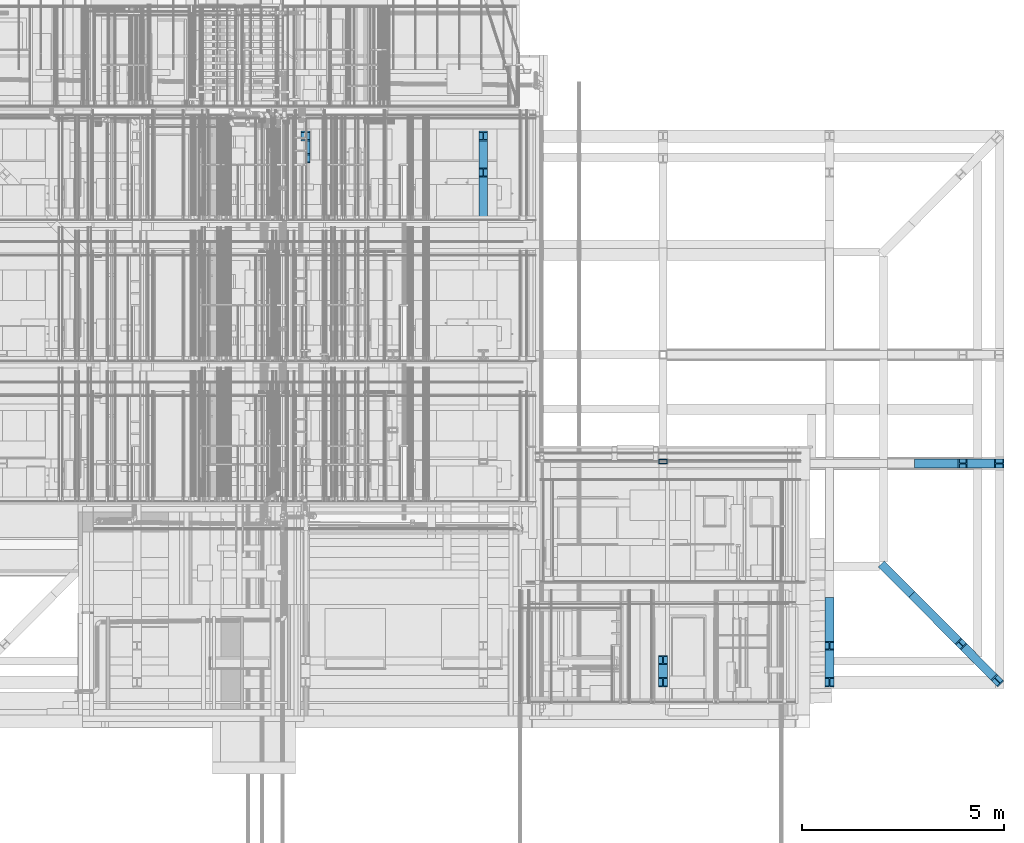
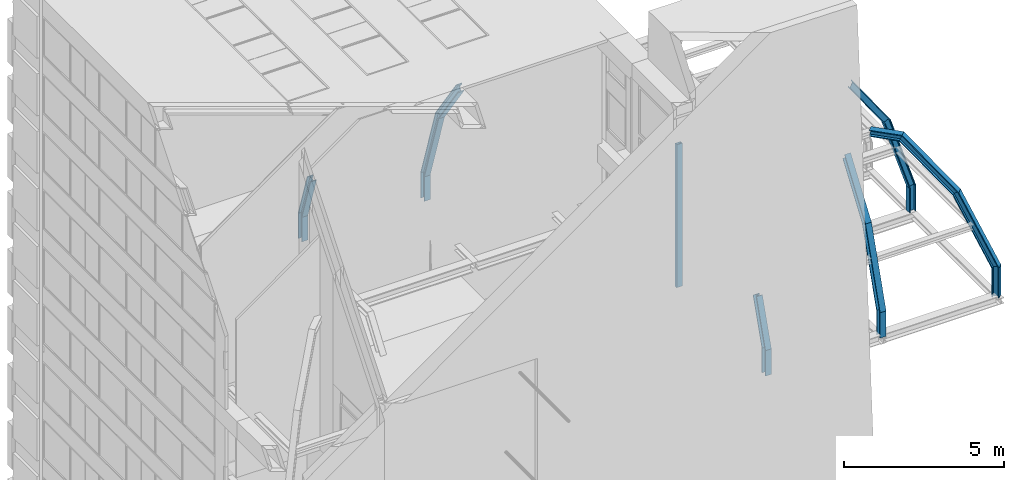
# One storey, part 2 of 583: 18 columns.
"""IFC2X3 building model written with IfcOpenShell, lengths in metres."""

import ifcopenshell
import ifcopenshell.guid

model = None  # the IFC model being written
_history = None  # IfcOwnerHistory: only IFC2X3 demands one
_inside = {}  # id of a spatial element -> (the spatial element, [elements in it])
_under = {}  # id of a project, library or spatial element -> (it, [spatial elements below it])
_declared = {}  # id of a project -> (the project, [libraries it declares])
_typed = {}  # id of a type object -> (the type object, [elements of that type])
_made_of = {}  # id of a material, layer set ... -> (it, [elements and type objects made of it])


def new_model(schema):
    """Start an empty IFC model of exactly this schema.

    Asked for "IFC4X3", IfcOpenShell would pick the latest addendum, in which some entities
    have other attributes; the version numbers below select the first issue.
    IFC2X3 requires an IfcOwnerHistory on every rooted entity: one is made here for all.
    """
    global model, _history
    if schema == "IFC4X3":
        model = ifcopenshell.file(schema_version=(4, 3, 0, 0))
    else:
        model = ifcopenshell.file(schema=schema)
    _inside.clear()
    _under.clear()
    _declared.clear()
    _typed.clear()
    _made_of.clear()
    _history = None
    if model.schema == "IFC2X3":
        org = make("IfcOrganization", Name="unknown")
        user = make(
            "IfcPersonAndOrganization",
            ThePerson=make("IfcPerson", FamilyName="unknown"),
            TheOrganization=org,
        )
        app = make(
            "IfcApplication",
            ApplicationDeveloper=org,
            Version="unknown",
            ApplicationFullName="unknown",
            ApplicationIdentifier="unknown",
        )
        _history = make(
            "IfcOwnerHistory",
            OwningUser=user,
            OwningApplication=app,
            ChangeAction="ADDED",
            CreationDate=0,
        )
    return model


def make(cls, **values):
    """One entity of the class cls with the attributes given. An attribute that is None is left unset."""
    return model.create_entity(
        cls, **{name: value for name, value in values.items() if value is not None}
    )


def entity(cls, *values):
    """Any entity or typed value of the class cls, its attributes in the order of the schema. None: left unset."""
    e = model.create_entity(cls)
    for i, value in enumerate(values):
        if value is not None:
            e[i] = value
    return e


def rooted(cls, **values):
    """An entity with a GlobalId (a new one), such as an element, a storey or a relation."""
    return make(cls, GlobalId=ifcopenshell.guid.new(), OwnerHistory=_history, **values)


def si_unit(unit_type, name, prefix=None):
    """IfcSIUnit, for example si_unit("LENGTHUNIT", "METRE", prefix="MILLI")."""
    return make("IfcSIUnit", UnitType=unit_type, Prefix=prefix, Name=name)


def converted_unit(unit_type, name, factor, base, dimensions=None, offset=None):
    """IfcConversionBasedUnit, such as the inch: factor (a typed value) times the base unit."""
    return make(
        "IfcConversionBasedUnit"
        if offset is None
        else "IfcConversionBasedUnitWithOffset",
        ConversionOffset=offset,
        Dimensions=None
        if dimensions is None
        else entity("IfcDimensionalExponents", *dimensions),
        UnitType=unit_type,
        Name=name,
        ConversionFactor=make(
            "IfcMeasureWithUnit", ValueComponent=factor, UnitComponent=base
        ),
    )


def derived_unit(unit_type, elements):
    """IfcDerivedUnit: a product of units, each with its exponent."""
    return make(
        "IfcDerivedUnit",
        Elements=[
            make("IfcDerivedUnitElement", Unit=unit, Exponent=power)
            for unit, power in elements
        ],
        UnitType=unit_type,
    )


def money_unit(currency):
    """IfcMonetaryUnit."""
    return make("IfcMonetaryUnit", Currency=currency)


def assignment(units):
    """IfcUnitAssignment: the units of a project."""
    return None if units is None else make("IfcUnitAssignment", Units=units)


def point(xyz):
    """IfcCartesianPoint."""
    return None if xyz is None else make("IfcCartesianPoint", Coordinates=xyz)


def direction(xyz):
    """IfcDirection."""
    return None if xyz is None else make("IfcDirection", DirectionRatios=xyz)


def frame(location, z_axis=None, x_axis=None):
    """IfcAxis2Placement3D, a coordinate frame: its origin and axes. An axis left out is left unset."""
    return make(
        "IfcAxis2Placement3D",
        Location=point(location),
        Axis=direction(z_axis),
        RefDirection=direction(x_axis),
    )


def origin_with_axes():
    """The frame at (0, 0, 0) with the z axis (0, 0, 1) and the x axis (1, 0, 0) written out."""
    return frame((0.0, 0.0, 0.0), z_axis=(0.0, 0.0, 1.0), x_axis=(1.0, 0.0, 0.0))


def place(relative_to, where):
    """IfcLocalPlacement: puts the frame where relative to a parent placement (None: the world)."""
    return make(
        "IfcLocalPlacement", PlacementRelTo=relative_to, RelativePlacement=where
    )


def context(
    kind, dimensions, precision=None, world=None, true_north=None, identifier=None
):
    """IfcGeometricRepresentationContext, for example the 3D "Model" context."""
    return make(
        "IfcGeometricRepresentationContext",
        ContextIdentifier=identifier,
        ContextType=kind,
        CoordinateSpaceDimension=dimensions,
        Precision=precision,
        WorldCoordinateSystem=world,
        TrueNorth=true_north,
    )


def subcontext(parent, identifier, kind, view, scale=None):
    """IfcGeometricRepresentationSubContext, for example "Body" below "Model"."""
    return make(
        "IfcGeometricRepresentationSubContext",
        ContextIdentifier=identifier,
        ContextType=kind,
        ParentContext=parent,
        TargetScale=scale,
        TargetView=view,
    )


def project(units=None, contexts=None):
    """IfcProject with its units and contexts."""
    return rooted(
        "IfcProject",
        Name="project",
        RepresentationContexts=contexts,
        UnitsInContext=assignment(units),
    )


def spatial(cls, under=None, at=None, **own):
    """A site, building, storey or space (cls), placed at a placement, below another one or the project."""
    s = rooted(cls, ObjectPlacement=at, **own)
    if under is not None:
        _under.setdefault(under.id(), (under, []))[1].append(s)
    return s


def polyline(points):
    """IfcPolyline through the points."""
    return make("IfcPolyline", Points=[point(p) for p in points])


def outline(outer, holes=None, kind="AREA"):
    """IfcArbitraryClosedProfileDef: a profile drawn as a closed curve; with holes, ...WithVoids."""
    if holes is None:
        return make("IfcArbitraryClosedProfileDef", ProfileType=kind, OuterCurve=outer)
    return make(
        "IfcArbitraryProfileDefWithVoids",
        ProfileType=kind,
        OuterCurve=outer,
        InnerCurves=holes,
    )


def extrude(swept, where, along, depth):
    """IfcExtrudedAreaSolid: the profile swept, set in the frame where, extruded along a direction by depth."""
    return make(
        "IfcExtrudedAreaSolid",
        SweptArea=swept,
        Position=where,
        ExtrudedDirection=direction(along),
        Depth=depth,
    )


def clip(a, b, op="DIFFERENCE"):
    """IfcBooleanClippingResult: the solid a cut by the half space b."""
    return make(
        "IfcBooleanClippingResult", Operator=op, FirstOperand=a, SecondOperand=b
    )


def halfspace(plane, agree):
    """IfcHalfSpaceSolid: all space on one side of the plane z = 0 of the frame plane."""
    return make(
        "IfcHalfSpaceSolid",
        BaseSurface=make("IfcPlane", Position=plane),
        AgreementFlag=agree,
    )


def shape(context_of_items, identifier, shape_type, items):
    """IfcShapeRepresentation: the items that make up one representation, for example the "Body"."""
    return make(
        "IfcShapeRepresentation",
        ContextOfItems=context_of_items,
        RepresentationIdentifier=identifier,
        RepresentationType=shape_type,
        Items=items,
    )


def material(Name=None, Category=None):
    """IfcMaterial."""
    return make("IfcMaterial", Name=Name, Category=Category)


def made_of(thing, what):
    """Note that an element or type object is made of a material, layer set ...; save() writes the relation."""
    if what is not None:
        _made_of.setdefault(what.id(), (what, []))[1].append(thing)
    return thing


def type_object(cls, material=None, **own):
    """A type object (cls), such as IfcWallType, which elements share."""
    return made_of(rooted(cls, **own), material)


def element(
    cls,
    number,
    at=None,
    inside=None,
    cuts=None,
    type_object=None,
    material=None,
    context=None,
    identifier="Body",
    shape_type=None,
    held_by="IfcProductDefinitionShape",
    body=None,
    shapes=None,
    **own,
):
    """One element of the class cls, such as IfcWall. Its Tag is "e" and its number.

    at: its placement. inside: the storey or other place that contains it. cuts: it is an
    opening in that element (IfcRelVoidsElement). A single representation is given by context,
    identifier, shape_type and body (its items); several are given by shapes. held_by: the class
    of the entity that holds the representations. save() writes the other relations.
    """
    e = rooted(cls, Tag="e%d" % number, ObjectPlacement=at, **own)
    if body is not None:
        shapes = [shape(context, identifier, shape_type, body)]
    if shapes is not None:
        e.Representation = make(held_by, Representations=shapes)
    if inside is not None:
        _inside.setdefault(inside.id(), (inside, []))[1].append(e)
    if cuts is not None:
        rooted(
            "IfcRelVoidsElement", RelatingBuildingElement=cuts, RelatedOpeningElement=e
        )
    if type_object is not None:
        _typed.setdefault(type_object.id(), (type_object, []))[1].append(e)
    return made_of(e, material)


def aggregate(whole, parts):
    """IfcRelAggregates: a whole, such as a stair, and the parts it consists of."""
    return rooted("IfcRelAggregates", RelatingObject=whole, RelatedObjects=parts)


def save(model, path):
    """Write the relations noted so far, then the file.

    IfcRelAggregates (storeys below a building ...), IfcRelContainedInSpatialStructure (elements
    in a storey), IfcRelDefinesByType, IfcRelAssociatesMaterial and IfcRelDeclares: one each for
    every whole, place, type object, material and project.
    """
    for whole, parts in _under.values():
        aggregate(whole, parts)
    for where, things in _inside.values():
        rooted(
            "IfcRelContainedInSpatialStructure",
            RelatedElements=things,
            RelatingStructure=where,
        )
    for kind, things in _typed.values():
        rooted("IfcRelDefinesByType", RelatedObjects=things, RelatingType=kind)
    for what, things in _made_of.values():
        rooted("IfcRelAssociatesMaterial", RelatedObjects=things, RelatingMaterial=what)
    for by, libraries in _declared.values():
        rooted("IfcRelDeclares", RelatingContext=by, RelatedDefinitions=libraries)
    model.write(path)


model = new_model("IFC2X3")

# Units and contexts
model_context = context("Model", 3, precision=1e-05, world=origin_with_axes(), true_north=direction((0.0, 1.0)))
body_context = subcontext(model_context, "Body", "Model", "MODEL_VIEW", scale=1.0)
ifc_project = project(units=[si_unit("LENGTHUNIT", "METRE"), si_unit("AREAUNIT", "SQUARE_METRE"), si_unit("VOLUMEUNIT", "CUBIC_METRE"), si_unit("ABSORBEDDOSEUNIT", "GRAY"), si_unit("AMOUNTOFSUBSTANCEUNIT", "MOLE"), si_unit("DOSEEQUIVALENTUNIT", "SIEVERT"), si_unit("ELECTRICCAPACITANCEUNIT", "FARAD"), si_unit("ELECTRICCHARGEUNIT", "COULOMB"), si_unit("ELECTRICCONDUCTANCEUNIT", "SIEMENS"), si_unit("ELECTRICCURRENTUNIT", "AMPERE"), si_unit("ELECTRICRESISTANCEUNIT", "OHM"), si_unit("ELECTRICVOLTAGEUNIT", "VOLT"), si_unit("ENERGYUNIT", "JOULE"), si_unit("FORCEUNIT", "NEWTON"), si_unit("FREQUENCYUNIT", "HERTZ"), si_unit("ILLUMINANCEUNIT", "LUX"), si_unit("INDUCTANCEUNIT", "HENRY"), si_unit("LUMINOUSFLUXUNIT", "LUMEN"), si_unit("LUMINOUSINTENSITYUNIT", "CANDELA"), si_unit("MAGNETICFLUXDENSITYUNIT", "TESLA"), si_unit("MAGNETICFLUXUNIT", "WEBER"), si_unit("MASSUNIT", "GRAM"), converted_unit("PLANEANGLEUNIT", "degree", entity("IfcReal", 0.0174532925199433), si_unit("PLANEANGLEUNIT", "RADIAN"), dimensions=[0, 0, 0, 0, 0, 0, 0]), si_unit("POWERUNIT", "WATT"), si_unit("PRESSUREUNIT", "PASCAL"), si_unit("RADIOACTIVITYUNIT", "BECQUEREL"), si_unit("SOLIDANGLEUNIT", "STERADIAN"), si_unit("THERMODYNAMICTEMPERATUREUNIT", "KELVIN"), si_unit("TIMEUNIT", "SECOND"), derived_unit("ACCELERATIONUNIT", [(si_unit("LENGTHUNIT", "METRE"), 1), (si_unit("TIMEUNIT", "SECOND"), -2)]), derived_unit("ANGULARVELOCITYUNIT", [(converted_unit("PLANEANGLEUNIT", "degree", entity("IfcReal", 0.0174532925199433), si_unit("PLANEANGLEUNIT", "RADIAN"), dimensions=[0, 0, 0, 0, 0, 0, 0]), 1), (si_unit("TIMEUNIT", "SECOND"), -1)]), derived_unit("CURVATUREUNIT", [(converted_unit("PLANEANGLEUNIT", "degree", entity("IfcReal", 0.0174532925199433), si_unit("PLANEANGLEUNIT", "RADIAN"), dimensions=[0, 0, 0, 0, 0, 0, 0]), 1), (si_unit("LENGTHUNIT", "METRE"), -1)]), derived_unit("DYNAMICVISCOSITYUNIT", [(si_unit("PRESSUREUNIT", "PASCAL"), 1), (si_unit("TIMEUNIT", "SECOND"), 1)]), derived_unit("HEATFLUXDENSITYUNIT", [(si_unit("POWERUNIT", "WATT"), 1), (si_unit("LENGTHUNIT", "METRE"), -2)]), derived_unit("HEATINGVALUEUNIT", [(si_unit("ENERGYUNIT", "JOULE"), 1), (si_unit("MASSUNIT", "GRAM"), -1)]), derived_unit("INTEGERCOUNTRATEUNIT", [(si_unit("TIMEUNIT", "SECOND"), -1)]), derived_unit("IONCONCENTRATIONUNIT", [(si_unit("MASSUNIT", "GRAM"), 1), (si_unit("VOLUMEUNIT", "CUBIC_METRE"), -1)]), derived_unit("ISOTHERMALMOISTURECAPACITYUNIT", [(si_unit("VOLUMEUNIT", "CUBIC_METRE"), 1), (si_unit("MASSUNIT", "GRAM"), -1)]), derived_unit("KINEMATICVISCOSITYUNIT", [(si_unit("AREAUNIT", "SQUARE_METRE"), 1), (si_unit("TIMEUNIT", "SECOND"), -1)]), derived_unit("LINEARFORCEUNIT", [(si_unit("FORCEUNIT", "NEWTON"), 1), (si_unit("LENGTHUNIT", "METRE"), -1)]), derived_unit("LINEARMOMENTUNIT", [(si_unit("FORCEUNIT", "NEWTON"), 1), (si_unit("LENGTHUNIT", "METRE"), -1)]), derived_unit("LINEARSTIFFNESSUNIT", [(si_unit("FORCEUNIT", "NEWTON"), 1), (si_unit("LENGTHUNIT", "METRE"), -1)]), derived_unit("LINEARVELOCITYUNIT", [(si_unit("LENGTHUNIT", "METRE"), 1), (si_unit("TIMEUNIT", "SECOND"), -1)]), derived_unit("LUMINOUSINTENSITYDISTRIBUTIONUNIT", [(si_unit("LUMINOUSINTENSITYUNIT", "CANDELA"), 1), (si_unit("LUMINOUSFLUXUNIT", "LUMEN"), -1)]), derived_unit("MASSDENSITYUNIT", [(si_unit("MASSUNIT", "GRAM"), 1), (si_unit("VOLUMEUNIT", "CUBIC_METRE"), -1)]), derived_unit("MASSFLOWRATEUNIT", [(si_unit("MASSUNIT", "GRAM"), 1), (si_unit("TIMEUNIT", "SECOND"), -1)]), derived_unit("MASSPERLENGTHUNIT", [(si_unit("MASSUNIT", "GRAM"), 1), (si_unit("LENGTHUNIT", "METRE"), -1)]), derived_unit("MODULUSOFELASTICITYUNIT", [(si_unit("FORCEUNIT", "NEWTON"), 1), (si_unit("AREAUNIT", "SQUARE_METRE"), -1)]), derived_unit("MODULUSOFLINEARSUBGRADEREACTIONUNIT", [(si_unit("FORCEUNIT", "NEWTON"), 1), (si_unit("LENGTHUNIT", "METRE"), -2)]), derived_unit("MODULUSOFROTATIONALSUBGRADEREACTIONUNIT", [(si_unit("FORCEUNIT", "NEWTON"), 1), (si_unit("LENGTHUNIT", "METRE"), 1)]), derived_unit("MODULUSOFSUBGRADEREACTIONUNIT", [(si_unit("FORCEUNIT", "NEWTON"), 1), (si_unit("VOLUMEUNIT", "CUBIC_METRE"), -1)]), derived_unit("MOISTUREDIFFUSIVITYUNIT", [(si_unit("VOLUMEUNIT", "CUBIC_METRE"), 1), (si_unit("TIMEUNIT", "SECOND"), -1)]), derived_unit("MOLECULARWEIGHTUNIT", [(si_unit("MASSUNIT", "GRAM"), 1), (si_unit("AMOUNTOFSUBSTANCEUNIT", "MOLE"), -1)]), derived_unit("PLANARFORCEUNIT", [(si_unit("FORCEUNIT", "NEWTON"), 1), (si_unit("LENGTHUNIT", "METRE"), -2)]), derived_unit("ROTATIONALFREQUENCYUNIT", [(si_unit("TIMEUNIT", "SECOND"), -1)]), derived_unit("ROTATIONALMASSUNIT", [(si_unit("MASSUNIT", "GRAM"), 1), (si_unit("LENGTHUNIT", "METRE"), 2)]), derived_unit("ROTATIONALSTIFFNESSUNIT", [(si_unit("FORCEUNIT", "NEWTON"), 1), (si_unit("LENGTHUNIT", "METRE"), 1), (converted_unit("PLANEANGLEUNIT", "degree", entity("IfcReal", 0.0174532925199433), si_unit("PLANEANGLEUNIT", "RADIAN"), dimensions=[0, 0, 0, 0, 0, 0, 0]), -1)]), derived_unit("SECTIONAREAINTEGRALUNIT", [(si_unit("LENGTHUNIT", "METRE"), 5)]), derived_unit("SECTIONMODULUSUNIT", [(si_unit("LENGTHUNIT", "METRE"), 3)]), derived_unit("SHEARMODULUSUNIT", [(si_unit("FORCEUNIT", "NEWTON"), 1), (si_unit("AREAUNIT", "SQUARE_METRE"), -1)]), derived_unit("SOUNDPOWERUNIT", [(si_unit("ENERGYUNIT", "JOULE"), 1), (si_unit("TIMEUNIT", "SECOND"), -1)]), derived_unit("SPECIFICHEATCAPACITYUNIT", [(si_unit("FORCEUNIT", "NEWTON"), 1), (si_unit("MASSUNIT", "GRAM"), -1), (si_unit("THERMODYNAMICTEMPERATUREUNIT", "KELVIN"), -1)]), derived_unit("TEMPERATUREGRADIENTUNIT", [(si_unit("THERMODYNAMICTEMPERATUREUNIT", "KELVIN"), 1), (si_unit("LENGTHUNIT", "METRE"), -1)]), derived_unit("THERMALADMITTANCEUNIT", [(si_unit("POWERUNIT", "WATT"), 1), (si_unit("AREAUNIT", "SQUARE_METRE"), -1), (si_unit("THERMODYNAMICTEMPERATUREUNIT", "KELVIN"), -1)]), derived_unit("THERMALCONDUCTANCEUNIT", [(si_unit("POWERUNIT", "WATT"), 1), (si_unit("LENGTHUNIT", "METRE"), -1), (si_unit("THERMODYNAMICTEMPERATUREUNIT", "KELVIN"), -1)]), derived_unit("THERMALEXPANSIONCOEFFICIENTUNIT", [(si_unit("THERMODYNAMICTEMPERATUREUNIT", "KELVIN"), -1)]), derived_unit("THERMALRESISTANCEUNIT", [(si_unit("AREAUNIT", "SQUARE_METRE"), 1), (si_unit("POWERUNIT", "WATT"), -1)]), derived_unit("THERMALTRANSMITTANCEUNIT", [(si_unit("POWERUNIT", "WATT"), 1), (si_unit("AREAUNIT", "SQUARE_METRE"), -1), (si_unit("THERMODYNAMICTEMPERATUREUNIT", "KELVIN"), -1)]), derived_unit("TORQUEUNIT", [(si_unit("FORCEUNIT", "NEWTON"), 1), (si_unit("LENGTHUNIT", "METRE"), 1)]), derived_unit("VAPORPERMEABILITYUNIT", [(si_unit("MASSUNIT", "GRAM"), 1), (si_unit("TIMEUNIT", "SECOND"), -1)]), derived_unit("VOLUMETRICFLOWRATEUNIT", [(si_unit("VOLUMEUNIT", "CUBIC_METRE"), 1), (si_unit("TIMEUNIT", "SECOND"), -1)]), derived_unit("WARPINGCONSTANTUNIT", [(si_unit("LENGTHUNIT", "METRE"), 6)]), derived_unit("WARPINGMOMENTUNIT", [(si_unit("FORCEUNIT", "NEWTON"), 1), (si_unit("LENGTHUNIT", "METRE"), 2)]), money_unit("GBP")], contexts=[model_context])

# Site, building, storey
site_placement = place(None, origin_with_axes())
site = spatial("IfcSite", under=ifc_project, at=site_placement, Name="Site", CompositionType="ELEMENT")
building_placement = place(site_placement, origin_with_axes())
building = spatial("IfcBuilding", under=site, at=building_placement, Name="Building01", CompositionType="ELEMENT")
storey_placement = place(building_placement, frame((0.0, 0.0, 20.78), z_axis=(0.0, 0.0, 1.0), x_axis=(1.0, 0.0, 0.0)))
storey = spatial("IfcBuildingStorey", under=building, at=storey_placement, Name="RL", CompositionType="ELEMENT", Elevation=20.78)

# Columns
ifc_material = material(Name="A_BSUK_Columns_Steel")
column_type = type_object("IfcColumnType", Name="A-Columns-Steel", PredefinedType="COLUMN")
column_1_placement = place(storey_placement, frame((17.96, 6.15, -5.85), z_axis=(0.0, 0.0, 1.0), x_axis=(-1.0, 0.0, 0.0)))
element("IfcColumn", 1, at=column_1_placement, inside=storey, type_object=column_type, material=ifc_material, Name="A-Columns-Steel", ObjectType="A-Columns-Steel", context=body_context, shape_type="SweptSolid", body=[
    extrude(outline(polyline([(-0.1, 0.05), (0.1, 0.05), (0.1, -0.05), (-0.1, -0.05), (-0.1, 0.05)]), holes=[polyline([(-0.09, 0.04), (-0.09, -0.04), (0.09, -0.04), (0.09, 0.04), (-0.09, 0.04)])]), origin_with_axes(), (0.0, 0.0, 1.0), 5.4468),
])
column_2_placement = place(storey_placement, frame((22.19695, 1.669278, -2.197404), z_axis=(0.0, 0.57357644, 0.81915204), x_axis=(-1.0, 0.0, 0.0)))
element("IfcColumn", 2, at=column_2_placement, inside=storey, type_object=column_type, material=ifc_material, Name="A2", ObjectType="A-Columns-Steel", context=body_context, shape_type="Clipping", body=[
    clip(clip(extrude(outline(polyline([(0.2139, 0.0), (0.2139, 0.0301), (0.116, 0.0301), (0.116, 0.2113), (0.2139, 0.2113), (0.2139, 0.2414), (0.0, 0.2414), (0.0, 0.2113), (0.0979, 0.2113), (0.0979, 0.0301), (0.0, 0.0301), (0.0, 0.0), (0.2139, 0.0)])), origin_with_axes(), (0.0, 0.0, 1.0), 2.269351), halfspace(frame((0.0, -0.878002, 1.686627), z_axis=(0.0, 0.46174861, -0.88701083), x_axis=(-1.0, 0.0, 0.0)), True)), halfspace(frame((0.0, 0.005274, 0.035289), z_axis=(0.0, 0.14780941, 0.98901586), x_axis=(1.0, 0.0, 0.0)), True)),
])
column_3_placement = place(storey_placement, frame((22.19695, 0.784485, -4.954652), z_axis=(0.0, 0.30901699, 0.95105652), x_axis=(-1.0, 0.0, 0.0)))
element("IfcColumn", 3, at=column_3_placement, inside=storey, type_object=column_type, material=ifc_material, Name="A2", ObjectType="A-Columns-Steel", context=body_context, shape_type="Clipping", body=[
    clip(clip(extrude(outline(polyline([(0.2139, 0.0), (0.2139, 0.0301), (0.116, 0.0301), (0.116, 0.2113), (0.2139, 0.2113), (0.2139, 0.2414), (0.0, 0.2414), (0.0, 0.2113), (0.0979, 0.2113), (0.0979, 0.0301), (0.0, 0.0301), (0.0, 0.0), (0.2139, 0.0)])), origin_with_axes(), (0.0, 0.0, 1.0), 2.966293), halfspace(frame((0.0, 0.005907, 0.037298), z_axis=(0.0, 0.15643447, 0.98768834), x_axis=(1.0, 0.0, 0.0)), True)), halfspace(frame((0.0, -0.428356, 2.866198), z_axis=(0.0, 0.14780941, -0.98901586), x_axis=(-1.0, 0.0, 0.0)), True)),
])
for number, where, z_axis, x_axis, name in (
    (4, (21.98305, 0.5549, -5.85), (0.0, 0.0, 1.0), (1.0, 0.0, 0.0), "A2"),
    (5, (17.85305, 0.5549, -5.85), (0.0, 0.0, 1.0), (1.0, 0.0, 0.0), "A2"),
):
    element("IfcColumn", number, at=place(storey_placement, frame(where, z_axis=z_axis, x_axis=x_axis)), inside=storey, type_object=column_type, material=ifc_material, Name=name, ObjectType="A-Columns-Steel", context=body_context, shape_type="Clipping", body=[
        clip(extrude(outline(polyline([(0.2139, 0.0), (0.2139, 0.0301), (0.116, 0.0301), (0.116, 0.2113), (0.2139, 0.2113), (0.2139, 0.2414), (0.0, 0.2414), (0.0, 0.2113), (0.0979, 0.2113), (0.0979, 0.0301), (0.0, 0.0301), (0.0, 0.0), (0.2139, 0.0)])), origin_with_axes(), (0.0, 0.0, 1.0), 0.969944), halfspace(frame((0.0, 0.149865, 0.946208), z_axis=(0.0, -0.15643447, -0.98768834), x_axis=(-1.0, 0.0, 0.0)), True)),
    ])
column_4_placement = place(storey_placement, frame((18.06695, 0.784485, -4.954652), z_axis=(0.0, 0.30901699, 0.95105652), x_axis=(-1.0, 0.0, 0.0)))
element("IfcColumn", 6, at=column_4_placement, inside=storey, type_object=column_type, material=ifc_material, Name="A2", ObjectType="A-Columns-Steel", context=body_context, shape_type="Clipping", body=[
    clip(clip(extrude(outline(polyline([(0.2139, 0.0), (0.2139, 0.0301), (0.116, 0.0301), (0.116, 0.2113), (0.2139, 0.2113), (0.2139, 0.2414), (0.0, 0.2414), (0.0, 0.2113), (0.0979, 0.2113), (0.0979, 0.0301), (0.0, 0.0301), (0.0, 0.0), (0.2139, 0.0)])), origin_with_axes(), (0.0, 0.0, 1.0), 1.807564), halfspace(frame((0.0, 0.005907, 0.037298), z_axis=(0.0, 0.15643447, 0.98768834), x_axis=(1.0, 0.0, 0.0)), True)), halfspace(frame((0.0, -0.428356, 2.866198), z_axis=(0.0, 0.14780941, -0.98901586), x_axis=(-1.0, 0.0, 0.0)), True)),
])
column_5_placement = place(storey_placement, frame((9.19695, 13.556947, -3.235557), z_axis=(0.0, 0.30901699, -0.95105652), x_axis=(0.0, 0.95105652, 0.30901699)))
element("IfcColumn", 7, at=column_5_placement, inside=storey, type_object=column_type, material=ifc_material, Name="A2", ObjectType="A-Columns-Steel", context=body_context, shape_type="Clipping", body=[
    clip(clip(extrude(outline(polyline([(0.0301, 0.0), (0.0301, -0.0979), (0.2113, -0.0979), (0.2113, 0.0), (0.2414, 0.0), (0.2414, -0.2139), (0.2113, -0.2139), (0.2113, -0.116), (0.0301, -0.116), (0.0301, -0.2139), (0.0, -0.2139), (0.0, 0.0), (0.0301, 0.0)])), origin_with_axes(), (0.0, 0.0, 1.0), 1.807564), halfspace(frame((-0.273376, 0.0, 1.726031), z_axis=(0.15643447, 0.0, -0.98768834), x_axis=(-0.98768834, 0.0, -0.15643447)), True)), halfspace(frame((-0.164116, 0.0, -1.098125), z_axis=(0.14780941, 0.0, 0.98901586), x_axis=(0.98901586, 0.0, -0.14780941)), True)),
])
for number, where, z_axis, x_axis, name in (
    (8, (8.98305, 14.3451, -4.880056), (0.0, 0.0, -1.0), (0.0, -1.0, 0.0), "A2"),
    (9, (13.39305, 14.3451, -4.880056), (0.0, 0.0, -1.0), (0.0, -1.0, 0.0), "A2"),
):
    element("IfcColumn", number, at=place(storey_placement, frame(where, z_axis=z_axis, x_axis=x_axis)), inside=storey, type_object=column_type, material=ifc_material, Name=name, ObjectType="A-Columns-Steel", context=body_context, shape_type="Clipping", body=[
        clip(extrude(outline(polyline([(0.0301, 0.0), (0.0301, -0.0979), (0.2113, -0.0979), (0.2113, 0.0), (0.2414, 0.0), (0.2414, -0.2139), (0.2113, -0.2139), (0.2113, -0.116), (0.0301, -0.116), (0.0301, -0.2139), (0.0, -0.2139), (0.0, 0.0), (0.0301, 0.0)])), origin_with_axes(), (0.0, 0.0, 1.0), 0.969944), halfspace(frame((0.0, 0.0, 0.0), z_axis=(-0.15643447, 0.0, 0.98768834), x_axis=(0.98768834, 0.0, 0.15643447)), True)),
    ])
column_6_placement = place(storey_placement, frame((13.60695, 13.19888, -2.13354), z_axis=(0.0, 0.30901699, -0.95105652), x_axis=(0.0, 0.95105652, 0.30901699)))
element("IfcColumn", 10, at=column_6_placement, inside=storey, type_object=column_type, material=ifc_material, Name="A2", ObjectType="A-Columns-Steel", context=body_context, shape_type="Clipping", body=[
    clip(clip(extrude(outline(polyline([(0.0301, 0.0), (0.0301, -0.0979), (0.2113, -0.0979), (0.2113, 0.0), (0.2414, 0.0), (0.2414, -0.2139), (0.2113, -0.2139), (0.2113, -0.116), (0.0301, -0.116), (0.0301, -0.2139), (0.0, -0.2139), (0.0, 0.0), (0.0301, 0.0)])), origin_with_axes(), (0.0, 0.0, 1.0), 2.966293), halfspace(frame((-0.45241, 0.0, 2.856405), z_axis=(0.15643447, 0.0, -0.98768834), x_axis=(-0.98768834, 0.0, -0.15643447)), True)), halfspace(frame((0.005274, 0.0, 0.035289), z_axis=(0.14780941, 0.0, 0.98901586), x_axis=(0.98901586, 0.0, -0.14780941)), True)),
])
column_7_placement = place(storey_placement, frame((13.60695, 11.929076, -0.338461), z_axis=(0.0, 0.57357644, -0.81915204), x_axis=(0.0, 0.81915204, 0.57357644)))
element("IfcColumn", 11, at=column_7_placement, inside=storey, type_object=column_type, material=ifc_material, Name="A2", ObjectType="A-Columns-Steel", context=body_context, shape_type="Clipping", body=[
    clip(clip(extrude(outline(polyline([(0.0301, 0.0), (0.0301, -0.0979), (0.2113, -0.0979), (0.2113, 0.0), (0.2414, 0.0), (0.2414, -0.2139), (0.2113, -0.2139), (0.2113, -0.116), (0.0301, -0.116), (0.0301, -0.2139), (0.0, -0.2139), (0.0, 0.0), (0.0301, 0.0)])), origin_with_axes(), (0.0, 0.0, 1.0), 2.269351), halfspace(frame((0.051469, 0.0, 0.098872), z_axis=(0.46174861, 0.0, 0.88701083), x_axis=(0.88701083, 0.0, -0.46174861)), True)), halfspace(frame((-0.326473, 0.0, 2.184481), z_axis=(0.14780941, 0.0, -0.98901586), x_axis=(-0.98901586, 0.0, -0.14780941)), True)),
])
column_8_placement = place(storey_placement, frame((25.305622, 6.20695, -2.197404), z_axis=(-0.57357644, 0.0, 0.81915204), x_axis=(0.0, -1.0, 0.0)))
element("IfcColumn", 12, at=column_8_placement, inside=storey, type_object=column_type, material=ifc_material, Name="A2", ObjectType="A-Columns-Steel", context=body_context, shape_type="Clipping", body=[
    clip(clip(extrude(outline(polyline([(0.2139, 0.0), (0.2139, 0.0301), (0.116, 0.0301), (0.116, 0.2113), (0.2139, 0.2113), (0.2139, 0.2414), (0.0, 0.2414), (0.0, 0.2113), (0.0979, 0.2113), (0.0979, 0.0301), (0.0, 0.0301), (0.0, 0.0), (0.2139, 0.0)])), origin_with_axes(), (0.0, 0.0, 1.0), 2.269351), halfspace(frame((0.0, -0.878002, 1.686627), z_axis=(0.0, 0.46174861, -0.88701083), x_axis=(-1.0, 0.0, 0.0)), True)), halfspace(frame((0.0, 0.005274, 0.035289), z_axis=(0.0, 0.14780941, 0.98901586), x_axis=(1.0, 0.0, 0.0)), True)),
])
column_9_placement = place(storey_placement, frame((26.190415, 6.20695, -4.954652), z_axis=(-0.30901699, 0.0, 0.95105652), x_axis=(0.0, -1.0, 0.0)))
element("IfcColumn", 13, at=column_9_placement, inside=storey, type_object=column_type, material=ifc_material, Name="A2", ObjectType="A-Columns-Steel", context=body_context, shape_type="Clipping", body=[
    clip(clip(extrude(outline(polyline([(0.2139, 0.0), (0.2139, 0.0301), (0.116, 0.0301), (0.116, 0.2113), (0.2139, 0.2113), (0.2139, 0.2414), (0.0, 0.2414), (0.0, 0.2113), (0.0979, 0.2113), (0.0979, 0.0301), (0.0, 0.0301), (0.0, 0.0), (0.2139, 0.0)])), origin_with_axes(), (0.0, 0.0, 1.0), 2.966293), halfspace(frame((0.0, 0.005907, 0.037298), z_axis=(0.0, 0.15643447, 0.98768834), x_axis=(1.0, 0.0, 0.0)), True)), halfspace(frame((0.0, -0.428356, 2.866198), z_axis=(0.0, 0.14780941, -0.98901586), x_axis=(-1.0, 0.0, 0.0)), True)),
])
column_10_placement = place(storey_placement, frame((26.42, 5.99305, -5.85), z_axis=(0.0, 0.0, 1.0), x_axis=(0.0, 1.0, 0.0)))
element("IfcColumn", 14, at=column_10_placement, inside=storey, type_object=column_type, material=ifc_material, Name="A2", ObjectType="A-Columns-Steel", context=body_context, shape_type="Clipping", body=[
    clip(extrude(outline(polyline([(0.2139, 0.0), (0.2139, 0.0301), (0.116, 0.0301), (0.116, 0.2113), (0.2139, 0.2113), (0.2139, 0.2414), (0.0, 0.2414), (0.0, 0.2113), (0.0979, 0.2113), (0.0979, 0.0301), (0.0, 0.0301), (0.0, 0.0), (0.2139, 0.0)])), origin_with_axes(), (0.0, 0.0, 1.0), 0.969944), halfspace(frame((0.0, 0.149865, 0.946208), z_axis=(0.0, -0.15643447, -0.98768834), x_axis=(-1.0, 0.0, 0.0)), True)),
])
column_11_placement = place(storey_placement, frame((26.262422, 0.859197, -4.78966), z_axis=(-0.31231518, 0.3140018, 0.89658357), x_axis=(-0.70900839, -0.70520005, 0.0)))
element("IfcColumn", 15, at=column_11_placement, inside=storey, type_object=column_type, material=ifc_material, Name="A2", ObjectType="A-Columns-Steel", context=body_context, shape_type="Clipping", body=[
    clip(clip(extrude(outline(polyline([(0.2139, 0.0), (0.2139, 0.0301), (0.116, 0.0301), (0.116, 0.2113), (0.2139, 0.2113), (0.2139, 0.2414), (0.0, 0.2414), (0.0, 0.2113), (0.0979, 0.2113), (0.0979, 0.0301), (0.0, 0.0301), (0.0, 0.0), (0.2139, 0.0)])), origin_with_axes(), (0.0, 0.0, 1.0), 2.938667), halfspace(frame((0.0, -0.458557, 2.825051), z_axis=(0.0, 0.16022129, -0.98708112), x_axis=(-1.0, 0.0, 0.0)), True)), halfspace(frame((0.0, 0.012482, 0.053455), z_axis=(0.0, 0.2273944, 0.97380274), x_axis=(1.0, 0.0, 0.0)), True)),
])
column_12_placement = place(storey_placement, frame((26.263395, 0.5549, -5.831), z_axis=(0.0, 0.0, 1.0), x_axis=(0.70900839, 0.70520005, 0.0)))
element("IfcColumn", 16, at=column_12_placement, inside=storey, type_object=column_type, material=ifc_material, Name="A2", ObjectType="A-Columns-Steel", context=body_context, shape_type="Clipping", body=[
    clip(extrude(outline(polyline([(0.2139, 0.0), (0.2139, 0.0301), (0.116, 0.0301), (0.116, 0.2113), (0.2139, 0.2113), (0.2139, 0.2414), (0.0, 0.2414), (0.0, 0.2113), (0.0979, 0.2113), (0.0979, 0.0301), (0.0, 0.0301), (0.0, 0.0), (0.2139, 0.0)])), origin_with_axes(), (0.0, 0.0, 1.0), 1.148249), halfspace(frame((0.0, 0.254265, 1.088876), z_axis=(0.0, -0.2273944, -0.97380274), x_axis=(-1.0, 0.0, 0.0)), True)),
])
column_13_placement = place(storey_placement, frame((24.054766, 2.775457, -0.2), z_axis=(-0.70520005, 0.70900839, 0.0), x_axis=(0.70900839, 0.70520005, 0.0)))
element("IfcColumn", 17, at=column_13_placement, inside=storey, type_object=column_type, material=ifc_material, Name="A2", ObjectType="A-Columns-Steel", context=body_context, shape_type="Clipping", body=[
    clip(clip(extrude(outline(polyline([(0.2139, 0.0), (0.2139, 0.0301), (0.116, 0.0301), (0.116, 0.2113), (0.2139, 0.2113), (0.2139, 0.2414), (0.0, 0.2414), (0.0, 0.2113), (0.0979, 0.2113), (0.0979, 0.0301), (0.0, 0.0301), (0.0, 0.0), (0.2139, 0.0)])), origin_with_axes(), (0.0, 0.0, 1.0), 1.065348), halfspace(frame((0.0, 0.0, 0.0), z_axis=(0.0, -0.38488404, 0.92296494), x_axis=(1.0, 0.0, 0.0)), True)), halfspace(frame((0.0, 0.0, 0.0), z_axis=(0.0, -0.15643447, 0.98768834), x_axis=(1.0, 0.0, 0.0)), True)),
])
column_14_placement = place(storey_placement, frame((25.376315, 1.750089, -2.21787), z_axis=(-0.49626941, 0.49894945, 0.71046894), x_axis=(-0.70900839, -0.70520005, 0.0)))
element("IfcColumn", 18, at=column_14_placement, inside=storey, type_object=column_type, material=ifc_material, Name="A2", ObjectType="A-Columns-Steel", context=body_context, shape_type="Clipping", body=[
    clip(clip(extrude(outline(polyline([(0.2139, 0.0), (0.2139, 0.0301), (0.116, 0.0301), (0.116, 0.2113), (0.2139, 0.2113), (0.2139, 0.2414), (0.0, 0.2414), (0.0, 0.2113), (0.0979, 0.2113), (0.0979, 0.0301), (0.0, 0.0301), (0.0, 0.0), (0.2139, 0.0)])), origin_with_axes(), (0.0, 0.0, 1.0), 2.601085), halfspace(frame((0.0, 0.006197, 0.038178), z_axis=(0.0, 0.16022129, 0.98708112), x_axis=(1.0, 0.0, 0.0)), True)), halfspace(frame((0.0, -0.888235, 2.130018), z_axis=(0.0, 0.38488404, -0.92296494), x_axis=(-1.0, 0.0, 0.0)), True)),
])

save(model, "model.ifc")
